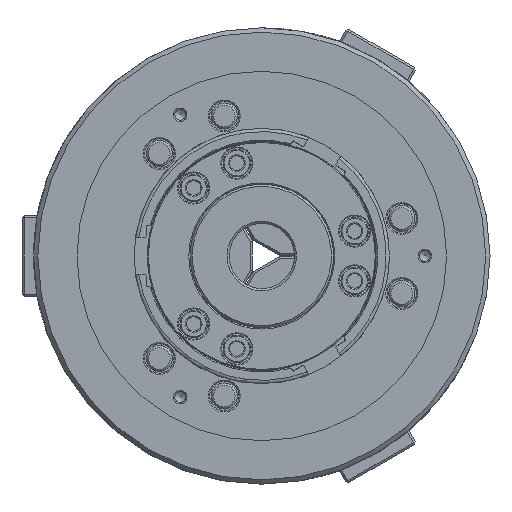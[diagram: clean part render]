
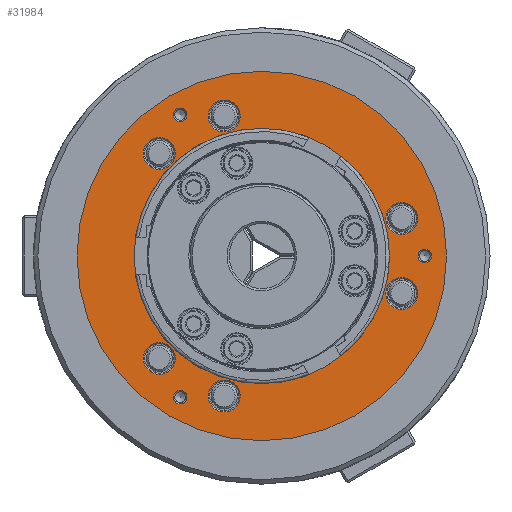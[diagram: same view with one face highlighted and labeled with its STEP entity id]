
A CAD part, left-side view. The second image highlights one B-rep face of the part: STEP entity #31984.
In plain terms, the highlighted planar face has unit normal (-1, 0, 0).
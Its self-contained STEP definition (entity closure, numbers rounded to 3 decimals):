
#52 = FACE_BOUND ( 'NONE', #50474, .T. ) ;
#571 = CARTESIAN_POINT ( 'NONE',  ( -86., 37.5, -61.852 ) ) ;
#611 = AXIS2_PLACEMENT_3D ( 'NONE', #20680, #21034, #4260 ) ;
#965 = ORIENTED_EDGE ( 'NONE', *, *, #46081, .T. ) ;
#1430 = EDGE_CURVE ( 'NONE', #23610, #23610, #22520, .T. ) ;
#2482 = DIRECTION ( 'NONE',  ( 1., 0., 0. ) ) ;
#4260 = DIRECTION ( 'NONE',  ( 0., 0., -1. ) ) ;
#6028 = CARTESIAN_POINT ( 'NONE',  ( -86., 0., 58.75 ) ) ;
#6598 = FACE_BOUND ( 'NONE', #9229, .T. ) ;
#6815 = DIRECTION ( 'NONE',  ( 1., 0., 0. ) ) ;
#8533 = CARTESIAN_POINT ( 'NONE',  ( -86., -75., 3.1 ) ) ;
#8618 = CIRCLE ( 'NONE', #54079, 7.35 ) ;
#9229 = EDGE_LOOP ( 'NONE', ( #14700 ) ) ;
#9626 = VERTEX_POINT ( 'NONE', #53098 ) ;
#10534 = DIRECTION ( 'NONE',  ( 1., 0., 0. ) ) ;
#10865 = EDGE_CURVE ( 'NONE', #30916, #30916, #46759, .T. ) ;
#11003 = FACE_BOUND ( 'NONE', #62484, .T. ) ;
#11496 = AXIS2_PLACEMENT_3D ( 'NONE', #15015, #25938, #43833 ) ;
#12081 = AXIS2_PLACEMENT_3D ( 'NONE', #23954, #63040, #49112 ) ;
#12121 = CIRCLE ( 'NONE', #50585, 7.35 ) ;
#13003 = EDGE_LOOP ( 'NONE', ( #965 ) ) ;
#14700 = ORIENTED_EDGE ( 'NONE', *, *, #16929, .F. ) ;
#15015 = CARTESIAN_POINT ( 'NONE',  ( -86., -64.403, -17.257 ) ) ;
#15186 = EDGE_CURVE ( 'NONE', #43659, #43659, #8618, .T. ) ;
#15478 = CARTESIAN_POINT ( 'NONE',  ( -86., -64.403, -24.607 ) ) ;
#16027 = CARTESIAN_POINT ( 'NONE',  ( -86., 0., 85. ) ) ;
#16855 = DIRECTION ( 'NONE',  ( 0., 0., -1. ) ) ;
#16929 = EDGE_CURVE ( 'NONE', #17364, #17364, #22531, .T. ) ;
#17210 = FACE_BOUND ( 'NONE', #45435, .T. ) ;
#17364 = VERTEX_POINT ( 'NONE', #6028 ) ;
#18316 = ORIENTED_EDGE ( 'NONE', *, *, #41070, .T. ) ;
#18885 = CARTESIAN_POINT ( 'NONE',  ( -86., 17.257, 57.053 ) ) ;
#19886 = CARTESIAN_POINT ( 'NONE',  ( -86., 47.146, -47.146 ) ) ;
#19921 = EDGE_CURVE ( 'NONE', #49516, #49516, #54469, .T. ) ;
#20581 = VERTEX_POINT ( 'NONE', #8533 ) ;
#20606 = ORIENTED_EDGE ( 'NONE', *, *, #1430, .T. ) ;
#20680 = CARTESIAN_POINT ( 'NONE',  ( -86., 47.146, 47.146 ) ) ;
#20871 = DIRECTION ( 'NONE',  ( -1., 0., 0. ) ) ;
#21034 = DIRECTION ( 'NONE',  ( 1., 0., 0. ) ) ;
#21043 = CARTESIAN_POINT ( 'NONE',  ( -86., 37.5, 64.952 ) ) ;
#21677 = VERTEX_POINT ( 'NONE', #15478 ) ;
#21881 = EDGE_LOOP ( 'NONE', ( #69569 ) ) ;
#22030 = VERTEX_POINT ( 'NONE', #72070 ) ;
#22520 = CIRCLE ( 'NONE', #38868, 7.35 ) ;
#22531 = CIRCLE ( 'NONE', #12081, 58.75 ) ;
#22659 = FACE_BOUND ( 'NONE', #56496, .T. ) ;
#23610 = VERTEX_POINT ( 'NONE', #18885 ) ;
#23954 = CARTESIAN_POINT ( 'NONE',  ( -86., 0., 0. ) ) ;
#24590 = EDGE_CURVE ( 'NONE', #30116, #30116, #51924, .T. ) ;
#25938 = DIRECTION ( 'NONE',  ( 1., 0., 0. ) ) ;
#26348 = CARTESIAN_POINT ( 'NONE',  ( -86., -75., 0. ) ) ;
#27001 = DIRECTION ( 'NONE',  ( 0., 0., -1. ) ) ;
#28578 = CIRCLE ( 'NONE', #611, 7.35 ) ;
#28880 = FACE_OUTER_BOUND ( 'NONE', #47595, .T. ) ;
#29625 = ORIENTED_EDGE ( 'NONE', *, *, #65365, .T. ) ;
#29736 = AXIS2_PLACEMENT_3D ( 'NONE', #26348, #20871, #35976 ) ;
#30116 = VERTEX_POINT ( 'NONE', #61907 ) ;
#30547 = CARTESIAN_POINT ( 'NONE',  ( -86., 37.5, 68.052 ) ) ;
#30916 = VERTEX_POINT ( 'NONE', #30547 ) ;
#31870 = EDGE_CURVE ( 'NONE', #20581, #20581, #54238, .T. ) ;
#31984 = ADVANCED_FACE ( 'NONE', ( #50804, #44591, #52, #61035, #22659, #17210, #34369, #11003, #33305, #6598, #28880 ), #66871, .F. ) ;
#32316 = EDGE_CURVE ( 'NONE', #9626, #9626, #12121, .T. ) ;
#32748 = DIRECTION ( 'NONE',  ( 0., 0., 1. ) ) ;
#32847 = EDGE_LOOP ( 'NONE', ( #34111 ) ) ;
#33305 = FACE_BOUND ( 'NONE', #13003, .T. ) ;
#34111 = ORIENTED_EDGE ( 'NONE', *, *, #24590, .T. ) ;
#34369 = FACE_BOUND ( 'NONE', #64119, .T. ) ;
#35976 = DIRECTION ( 'NONE',  ( 0., 0., 1. ) ) ;
#37208 = DIRECTION ( 'NONE',  ( 0., 0., -1. ) ) ;
#38773 = DIRECTION ( 'NONE',  ( 0., 0., -1. ) ) ;
#38868 = AXIS2_PLACEMENT_3D ( 'NONE', #54726, #10534, #37208 ) ;
#39072 = DIRECTION ( 'NONE',  ( 0., 0., 1. ) ) ;
#39743 = DIRECTION ( 'NONE',  ( -1., 0., 0. ) ) ;
#41070 = EDGE_CURVE ( 'NONE', #22030, #22030, #28578, .T. ) ;
#43659 = VERTEX_POINT ( 'NONE', #54980 ) ;
#43833 = DIRECTION ( 'NONE',  ( 0., 0., -1. ) ) ;
#43996 = ORIENTED_EDGE ( 'NONE', *, *, #15186, .T. ) ;
#44591 = FACE_BOUND ( 'NONE', #21881, .T. ) ;
#45435 = EDGE_LOOP ( 'NONE', ( #20606 ) ) ;
#45572 = CARTESIAN_POINT ( 'NONE',  ( -86., 37.5, -64.952 ) ) ;
#45613 = AXIS2_PLACEMENT_3D ( 'NONE', #21043, #59770, #32748 ) ;
#46081 = EDGE_CURVE ( 'NONE', #21677, #21677, #63974, .T. ) ;
#46759 = CIRCLE ( 'NONE', #45613, 3.1 ) ;
#47595 = EDGE_LOOP ( 'NONE', ( #29625 ) ) ;
#48347 = CIRCLE ( 'NONE', #70555, 85. ) ;
#49112 = DIRECTION ( 'NONE',  ( 0., 0., 1. ) ) ;
#49516 = VERTEX_POINT ( 'NONE', #571 ) ;
#50012 = DIRECTION ( 'NONE',  ( -1., 0., 0. ) ) ;
#50474 = EDGE_LOOP ( 'NONE', ( #56861 ) ) ;
#50585 = AXIS2_PLACEMENT_3D ( 'NONE', #62762, #2482, #63113 ) ;
#50804 = FACE_BOUND ( 'NONE', #65470, .T. ) ;
#51159 = DIRECTION ( 'NONE',  ( 1., 0., 0. ) ) ;
#51363 = CARTESIAN_POINT ( 'NONE',  ( -86., -64.403, 17.257 ) ) ;
#51924 = CIRCLE ( 'NONE', #53101, 7.35 ) ;
#53098 = CARTESIAN_POINT ( 'NONE',  ( -86., 17.257, -71.753 ) ) ;
#53101 = AXIS2_PLACEMENT_3D ( 'NONE', #19886, #65800, #38773 ) ;
#54079 = AXIS2_PLACEMENT_3D ( 'NONE', #51363, #6815, #27001 ) ;
#54238 = CIRCLE ( 'NONE', #29736, 3.1 ) ;
#54469 = CIRCLE ( 'NONE', #60308, 3.1 ) ;
#54726 = CARTESIAN_POINT ( 'NONE',  ( -86., 17.257, 64.403 ) ) ;
#54980 = CARTESIAN_POINT ( 'NONE',  ( -86., -64.403, 9.907 ) ) ;
#55917 = CARTESIAN_POINT ( 'NONE',  ( -86., 85., 0. ) ) ;
#56496 = EDGE_LOOP ( 'NONE', ( #18316 ) ) ;
#56861 = ORIENTED_EDGE ( 'NONE', *, *, #32316, .T. ) ;
#59768 = ORIENTED_EDGE ( 'NONE', *, *, #10865, .F. ) ;
#59770 = DIRECTION ( 'NONE',  ( -1., 0., 0. ) ) ;
#60308 = AXIS2_PLACEMENT_3D ( 'NONE', #45572, #39743, #72251 ) ;
#60959 = CARTESIAN_POINT ( 'NONE',  ( -86., 0., 0. ) ) ;
#61035 = FACE_BOUND ( 'NONE', #32847, .T. ) ;
#61907 = CARTESIAN_POINT ( 'NONE',  ( -86., 47.146, -54.496 ) ) ;
#62484 = EDGE_LOOP ( 'NONE', ( #43996 ) ) ;
#62762 = CARTESIAN_POINT ( 'NONE',  ( -86., 17.257, -64.403 ) ) ;
#63040 = DIRECTION ( 'NONE',  ( -1., 0., 0. ) ) ;
#63113 = DIRECTION ( 'NONE',  ( 0., 0., -1. ) ) ;
#63974 = CIRCLE ( 'NONE', #11496, 7.35 ) ;
#64119 = EDGE_LOOP ( 'NONE', ( #72131 ) ) ;
#65365 = EDGE_CURVE ( 'NONE', #66047, #66047, #48347, .T. ) ;
#65470 = EDGE_LOOP ( 'NONE', ( #59768 ) ) ;
#65800 = DIRECTION ( 'NONE',  ( 1., 0., 0. ) ) ;
#66047 = VERTEX_POINT ( 'NONE', #16027 ) ;
#66871 = PLANE ( 'NONE',  #69245 ) ;
#69245 = AXIS2_PLACEMENT_3D ( 'NONE', #55917, #51159, #16855 ) ;
#69569 = ORIENTED_EDGE ( 'NONE', *, *, #31870, .F. ) ;
#70555 = AXIS2_PLACEMENT_3D ( 'NONE', #60959, #50012, #39072 ) ;
#72070 = CARTESIAN_POINT ( 'NONE',  ( -86., 47.146, 39.796 ) ) ;
#72131 = ORIENTED_EDGE ( 'NONE', *, *, #19921, .F. ) ;
#72251 = DIRECTION ( 'NONE',  ( 0., 0., 1. ) ) ;
